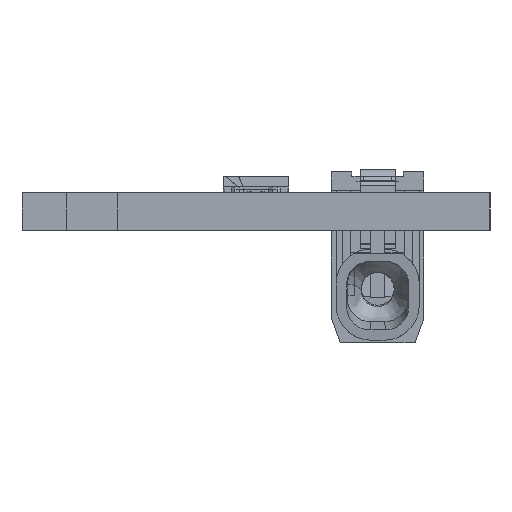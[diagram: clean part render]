
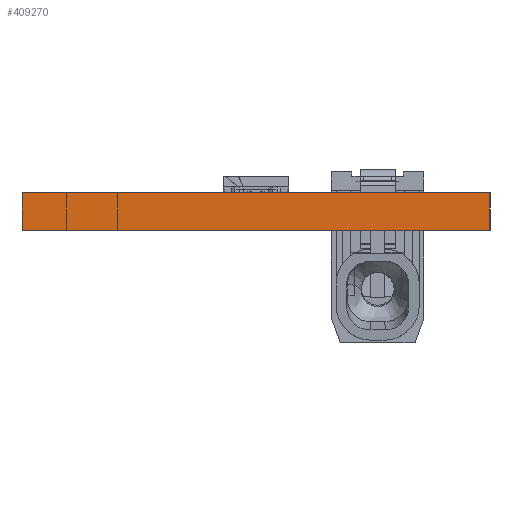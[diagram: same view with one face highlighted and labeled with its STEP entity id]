
A CAD part, left-side view. The second image highlights one B-rep face of the part: STEP entity #409270.
In plain terms, the highlighted planar face has unit normal (-1, 0, 0).
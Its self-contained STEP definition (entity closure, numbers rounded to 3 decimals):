
#378140=CARTESIAN_POINT('',(-83.975,42.357,0.));
#378150=DIRECTION('',(0.,1.,0.));
#378160=VECTOR('',#378150,0.039);
#378170=LINE('',#378140,#378160);
#378180=CARTESIAN_POINT('',(-83.975,42.357,0.));
#378190=VERTEX_POINT('',#378180);
#378200=CARTESIAN_POINT('',(-83.975,62.357,0.));
#378210=VERTEX_POINT('',#378200);
#378220=EDGE_CURVE('',#378190,#378210,#378170,.T.);
#387590=CARTESIAN_POINT('',(-83.975,42.357,-1.6));
#387600=VERTEX_POINT('',#387590);
#391710=CARTESIAN_POINT('',(-83.975,62.357,-1.6));
#391720=VERTEX_POINT('',#391710);
#391750=CARTESIAN_POINT('',(-83.975,42.357,-1.6));
#391760=DIRECTION('',(0.,1.,0.));
#391770=VECTOR('',#391760,0.039);
#391780=LINE('',#391750,#391770);
#391790=EDGE_CURVE('',#387600,#391720,#391780,.T.);
#397000=CARTESIAN_POINT('',(-83.975,42.357,0.));
#397010=DIRECTION('',(0.,0.,-1.));
#397020=VECTOR('',#397010,1.);
#397030=LINE('',#397000,#397020);
#397040=EDGE_CURVE('',#378190,#387600,#397030,.T.);
#408980=CARTESIAN_POINT('',(-83.975,62.357,0.));
#408990=DIRECTION('',(0.,0.,-1.));
#409000=VECTOR('',#408990,1.);
#409010=LINE('',#408980,#409000);
#409020=EDGE_CURVE('',#378210,#391720,#409010,.T.);
#409160=CARTESIAN_POINT('',(-83.975,42.357,0.));
#409170=DIRECTION('',(1.,0.,0.));
#409180=DIRECTION('',(0.,-1.,0.));
#409190=AXIS2_PLACEMENT_3D('',#409160,#409170,#409180);
#409200=PLANE('',#409190);
#409210=ORIENTED_EDGE('',*,*,#378220,.T.);
#409220=ORIENTED_EDGE('',*,*,#397040,.F.);
#409230=ORIENTED_EDGE('',*,*,#391790,.F.);
#409240=ORIENTED_EDGE('',*,*,#409020,.T.);
#409250=EDGE_LOOP('',(#409240,#409230,#409220,#409210));
#409260=FACE_OUTER_BOUND('',#409250,.T.);
#409270=ADVANCED_FACE('',(#409260),#409200,.F.);
